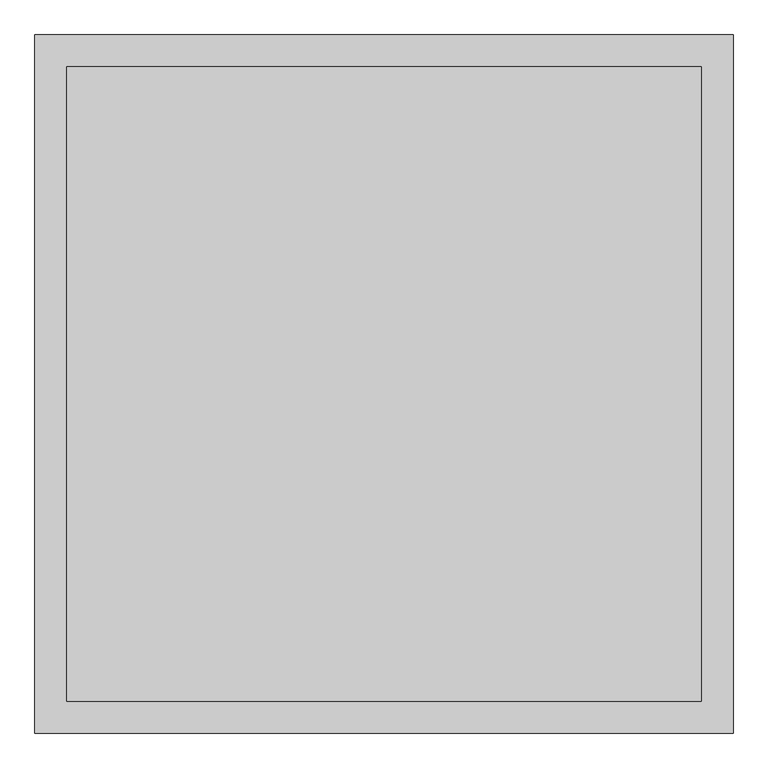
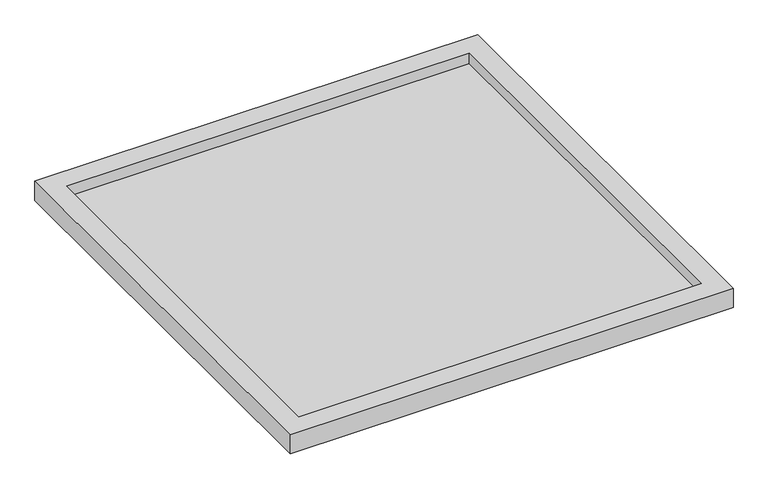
"""IFC4 building model written with IfcOpenShell, lengths in millimetres: proxy geometry, PLATO DE DUCHA : Plato de Ducha 110x110 cm."""

from ifc_helpers import new_model, si_unit, frame, origin, place, context, project, spatial, polyline, outline, extrude, faceted_brep, source, transform, mapped, element, save


def generic_models_6c24c604(model_context):
    return source(origin(), model_context, "Body", "SolidModel", [
        extrude(outline(polyline([(-500.0, 500.0), (500.0, 500.0), (500.0, -500.0), (-500.0, -500.0), (-500.0, 500.0)])), frame((0.0, 0.0, 20.0), z_axis=(0.0, 0.0, 1.0), x_axis=(1.0, 0.0, 0.0)), (0.0, 0.0, 1.0), 1.9779388),
        faceted_brep([(550.0, 550.0, 0.0), (550.0, 550.0, 50.0), (550.0, -550.0, 50.0), (550.0, -550.0, 0.0), (547.5, 547.5, 47.5), (547.5, 547.5, 0.0), (547.5, -547.5, 0.0), (547.5, -547.5, 47.5), (502.5, 502.5, 20.0), (502.5, 502.5, 47.5), (502.5, -502.5, 47.5), (502.5, -502.5, 20.0), (500.0, 500.0, 50.0), (500.0, 500.0, 20.0), (500.0, -500.0, 20.0), (500.0, -500.0, 50.0), (-550.0, -550.0, 50.0), (-550.0, -550.0, 0.0), (-547.5, -547.5, 0.0), (-547.5, -547.5, 47.5), (-502.5, -502.5, 47.5), (-502.5, -502.5, 20.0), (-500.0, -500.0, 20.0), (-500.0, -500.0, 50.0), (-550.0, 550.0, 50.0), (-550.0, 550.0, 0.0), (-547.5, 547.5, 0.0), (-547.5, 547.5, 47.5), (-502.5, 502.5, 47.5), (-502.5, 502.5, 20.0), (-500.0, 500.0, 20.0), (-500.0, 500.0, 50.0)], [[[0, 1, 2, 3]], [[4, 5, 6, 7]], [[8, 9, 10, 11]], [[12, 13, 14, 15]], [[3, 2, 16, 17]], [[7, 6, 18, 19]], [[11, 10, 20, 21]], [[15, 14, 22, 23]], [[17, 16, 24, 25]], [[19, 18, 26, 27]], [[21, 20, 28, 29]], [[23, 22, 30, 31]], [[25, 24, 1, 0]], [[3, 17, 25, 0], [5, 26, 18, 6]], [[27, 26, 5, 4]], [[7, 19, 27, 4], [9, 28, 20, 10]], [[29, 28, 9, 8]], [[11, 21, 29, 8], [13, 30, 22, 14]], [[31, 30, 13, 12]], [[1, 24, 16, 2], [15, 23, 31, 12]]]),
    ])


if __name__ == "__main__":
    model = new_model("IFC4")
    model_context = context("Model", 3, world=origin())
    ifc_project = project(units=[si_unit("LENGTHUNIT", "METRE", prefix="MILLI")], contexts=[model_context])
    site = spatial("IfcSite", under=ifc_project)
    building = spatial("IfcBuilding", under=site)
    placement = place(None, origin())
    generic_models_shape = generic_models_6c24c604(model_context)
    element("IfcBuildingElementProxy", 1, Name="PLATO DE DUCHA : Plato de Ducha 110x110 cm", ObjectType="PLATO DE DUCHA : Plato de Ducha 110x110 cm", at=placement, inside=building, context=model_context, shape_type="MappedRepresentation", body=[
        mapped(generic_models_shape, transform((0.0, 0.0, 0.0), x_axis=(1.0, 0.0, 0.0), y_axis=(0.0, 1.0, 0.0), z_axis=(0.0, 0.0, 1.0))),
    ])
    save(model, "model.ifc")
